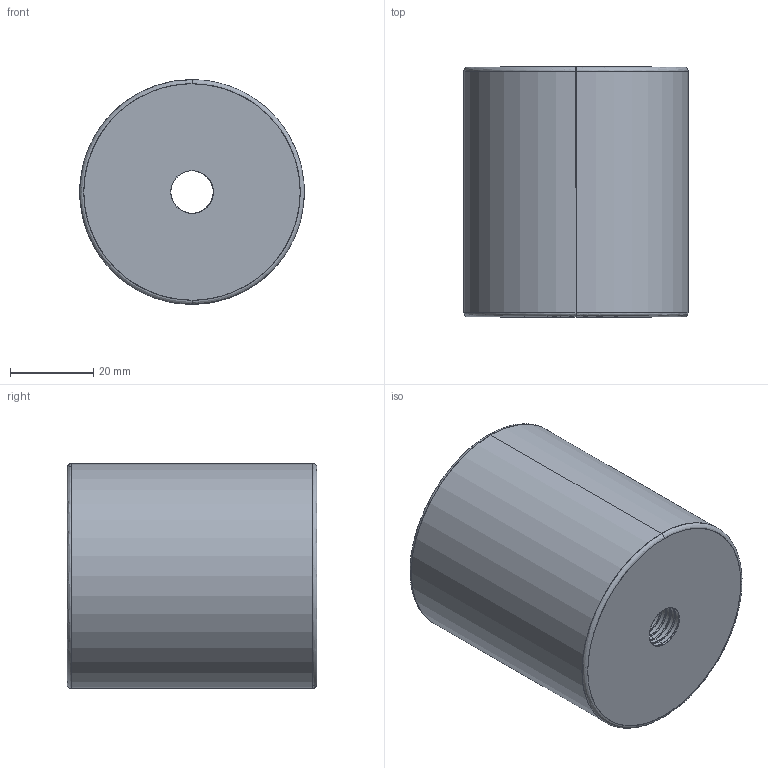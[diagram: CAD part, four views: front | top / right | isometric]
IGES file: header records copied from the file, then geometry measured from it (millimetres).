
Start section: SolidWorks IGES file using analytic representation for surfaces
Global section: file name: D:\Belgelerim\solid çalýþmalarým\D40 VÝDA KANALI AÇILACAK\ÝGS\D40_54X60.IGS; native system: SolidWorks 2008; preprocessor: SolidWorks 2008; author: kalite-mail; date: 080708.171109; units: millimetre
Bounding box: 54 x 60 x 54 mm (x, y, z)
Surface area: 21006.8 mm2 (no closed solid volume)
Topology: 0 solids, 0 shells, 60 faces, 1626 edges, 1626 vertices
Faces by surface type: revolution 45, bspline 15
